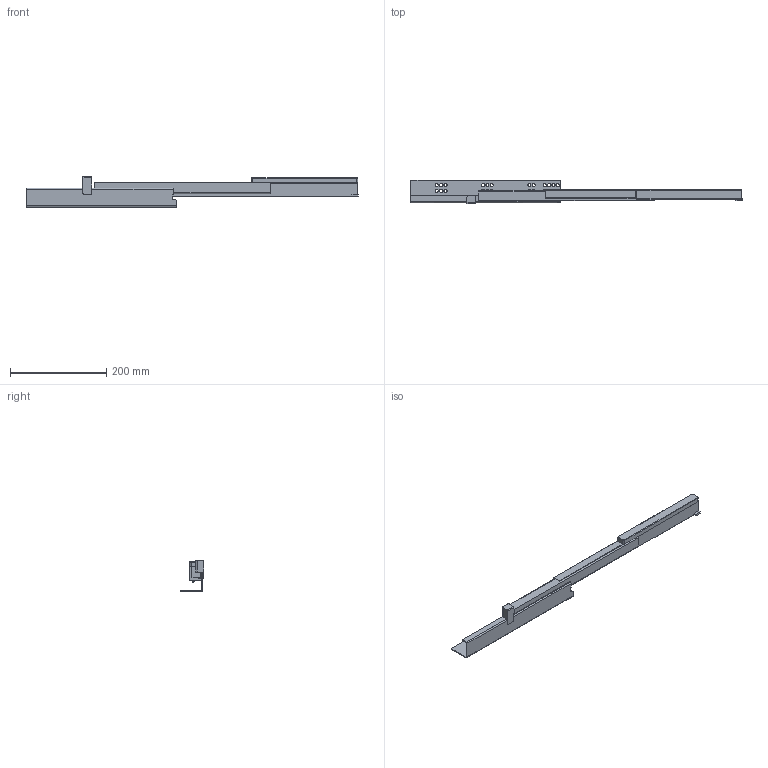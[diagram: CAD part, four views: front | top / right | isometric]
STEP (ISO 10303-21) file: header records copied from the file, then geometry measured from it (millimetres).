
FILE_DESCRIPTION (( 'STEP AP203' ), '1' );
FILE_NAME ('HD10450H-R(´ò¿ª).STEP', '2021-04-02T00:37:53', ( 'Users' ), ( 'Microsoft' ), 'SwSTEP 2.0', 'SolidWorks 2018', '' );
FILE_SCHEMA (( 'CONFIG_CONTROL_DESIGN' ));
Length unit declared in the file: millimetre
Products named in the file (1): HD10450H-R(湖羲)
Bounding box: 688.5 x 47.8 x 64.23 mm (x, y, z)
Volume: 389979.1 mm3; surface area: 115751.6 mm2
Topology: 1 solids, 1 shells, 235 faces, 627 edges, 394 vertices
Faces by surface type: cylinder 104, plane 71, cone 48, torus 12
Entity records: 7528 total; most frequent: DIRECTION 1384, CARTESIAN_POINT 1260, ORIENTED_EDGE 1254, EDGE_CURVE 627, AXIS2_PLACEMENT_3D 522, VERTEX_POINT 394, LINE 340, VECTOR 340
